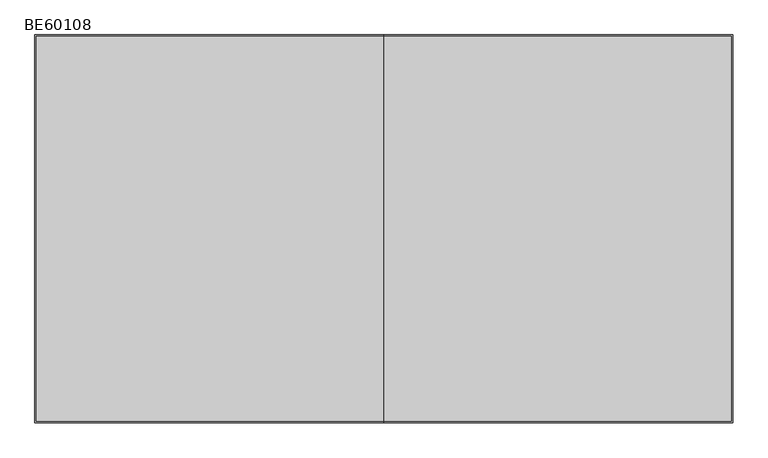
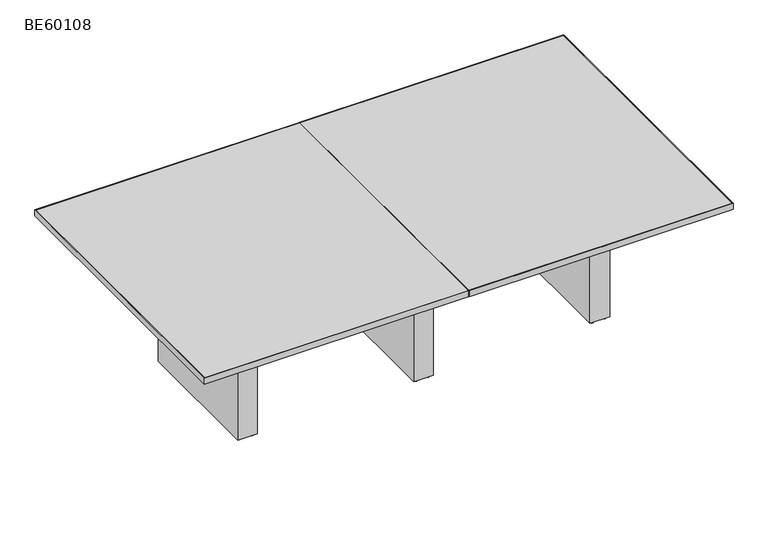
"""IFC4 building model written with IfcOpenShell, lengths in millimetres: furniture geometry, ERG-Beta-Conference_Table-Rectangle : BE60108."""

from ifc_helpers import new_model, si_unit, point, frame, frame_2d, origin, origin_with_axes, place, context, project, spatial, polyline, circle_curve, trimmed, segment, composite_curve, outline, extrude, source, transform, mapped, element, save


def be60108_65b3de9a(model_context):
    return source(origin(), model_context, "Body", "SweptSolid", [
        extrude(outline(composite_curve([segment(trimmed(circle_curve(frame_2d((511.175, 390.276527)), 9.525), [point((501.65, 390.276527))], [point((520.7, 390.276527))], False, "CARTESIAN"), True, "CONTINUOUS"), segment(trimmed(circle_curve(frame_2d((511.175, 390.276527)), 9.525), [point((520.7, 390.276527))], [point((501.65, 390.276527))], False, "CARTESIAN"), True, "CONTINUOUS")], self_intersect=False)), origin_with_axes(), (0.0, 0.0, 1.0), 9.525),
        extrude(outline(composite_curve([segment(trimmed(circle_curve(frame_2d((574.675, 390.276527)), 9.525), [point((565.15, 390.276527))], [point((584.2, 390.276527))], False, "CARTESIAN"), True, "CONTINUOUS"), segment(trimmed(circle_curve(frame_2d((574.675, 390.276527)), 9.525), [point((584.2, 390.276527))], [point((565.15, 390.276527))], False, "CARTESIAN"), True, "CONTINUOUS")], self_intersect=False)), origin_with_axes(), (0.0, 0.0, 1.0), 9.525),
        extrude(outline(composite_curve([segment(trimmed(circle_curve(frame_2d((511.175, -282.823473)), 9.525), [point((501.65, -282.823473))], [point((520.7, -282.823473))], False, "CARTESIAN"), True, "CONTINUOUS"), segment(trimmed(circle_curve(frame_2d((511.175, -282.823473)), 9.525), [point((520.7, -282.823473))], [point((501.65, -282.823473))], False, "CARTESIAN"), True, "CONTINUOUS")], self_intersect=False)), origin_with_axes(), (0.0, 0.0, 1.0), 9.525),
        extrude(outline(composite_curve([segment(trimmed(circle_curve(frame_2d((574.675, -282.823473)), 9.525), [point((565.15, -282.823473))], [point((584.2, -282.823473))], False, "CARTESIAN"), True, "CONTINUOUS"), segment(trimmed(circle_curve(frame_2d((574.675, -282.823473)), 9.525), [point((584.2, -282.823473))], [point((565.15, -282.823473))], False, "CARTESIAN"), True, "CONTINUOUS")], self_intersect=False)), origin_with_axes(), (0.0, 0.0, 1.0), 9.525),
        extrude(outline(polyline([(593.725, 409.326527), (593.725, -301.873473), (492.125, -301.873473), (492.125, 409.326527), (593.725, 409.326527)])), frame((0.0, 0.0, 9.525), z_axis=(0.0, 0.0, 1.0), x_axis=(1.0, 0.0, 0.0)), (0.0, 0.0, 1.0), 695.3249758),
        extrude(outline(composite_curve([segment(trimmed(circle_curve(frame_2d((1425.575, 390.276527)), 9.525), [point((1416.05, 390.276527))], [point((1435.1, 390.276527))], False, "CARTESIAN"), True, "CONTINUOUS"), segment(trimmed(circle_curve(frame_2d((1425.575, 390.276527)), 9.525), [point((1435.1, 390.276527))], [point((1416.05, 390.276527))], False, "CARTESIAN"), True, "CONTINUOUS")], self_intersect=False)), origin_with_axes(), (0.0, 0.0, 1.0), 9.525),
        extrude(outline(composite_curve([segment(trimmed(circle_curve(frame_2d((1489.075, 390.276527)), 9.525), [point((1479.55, 390.276527))], [point((1498.6, 390.276527))], False, "CARTESIAN"), True, "CONTINUOUS"), segment(trimmed(circle_curve(frame_2d((1489.075, 390.276527)), 9.525), [point((1498.6, 390.276527))], [point((1479.55, 390.276527))], False, "CARTESIAN"), True, "CONTINUOUS")], self_intersect=False)), origin_with_axes(), (0.0, 0.0, 1.0), 9.525),
        extrude(outline(composite_curve([segment(trimmed(circle_curve(frame_2d((1425.575, -282.823473)), 9.525), [point((1416.05, -282.823473))], [point((1435.1, -282.823473))], False, "CARTESIAN"), True, "CONTINUOUS"), segment(trimmed(circle_curve(frame_2d((1425.575, -282.823473)), 9.525), [point((1435.1, -282.823473))], [point((1416.05, -282.823473))], False, "CARTESIAN"), True, "CONTINUOUS")], self_intersect=False)), origin_with_axes(), (0.0, 0.0, 1.0), 9.525),
        extrude(outline(composite_curve([segment(trimmed(circle_curve(frame_2d((1489.075, -282.823473)), 9.525), [point((1479.55, -282.823473))], [point((1498.6, -282.823473))], False, "CARTESIAN"), True, "CONTINUOUS"), segment(trimmed(circle_curve(frame_2d((1489.075, -282.823473)), 9.525), [point((1498.6, -282.823473))], [point((1479.55, -282.823473))], False, "CARTESIAN"), True, "CONTINUOUS")], self_intersect=False)), origin_with_axes(), (0.0, 0.0, 1.0), 9.525),
        extrude(outline(polyline([(1508.125, 409.326527), (1508.125, -301.873473), (1406.525, -301.873473), (1406.525, 409.326527), (1508.125, 409.326527)])), frame((0.0, 0.0, 9.525), z_axis=(0.0, 0.0, 1.0), x_axis=(1.0, 0.0, 0.0)), (0.0, 0.0, 1.0), 695.3249758),
        extrude(outline(composite_curve([segment(trimmed(circle_curve(frame_2d((-403.225, 390.276527)), 9.525), [point((-412.75, 390.276527))], [point((-393.7, 390.276527))], False, "CARTESIAN"), True, "CONTINUOUS"), segment(trimmed(circle_curve(frame_2d((-403.225, 390.276527)), 9.525), [point((-393.7, 390.276527))], [point((-412.75, 390.276527))], False, "CARTESIAN"), True, "CONTINUOUS")], self_intersect=False)), origin_with_axes(), (0.0, 0.0, 1.0), 9.525),
        extrude(outline(composite_curve([segment(trimmed(circle_curve(frame_2d((-339.725, 390.276527)), 9.525), [point((-349.25, 390.276527))], [point((-330.2, 390.276527))], False, "CARTESIAN"), True, "CONTINUOUS"), segment(trimmed(circle_curve(frame_2d((-339.725, 390.276527)), 9.525), [point((-330.2, 390.276527))], [point((-349.25, 390.276527))], False, "CARTESIAN"), True, "CONTINUOUS")], self_intersect=False)), origin_with_axes(), (0.0, 0.0, 1.0), 9.525),
        extrude(outline(composite_curve([segment(trimmed(circle_curve(frame_2d((-403.225, -282.823473)), 9.525), [point((-412.75, -282.823473))], [point((-393.7, -282.823473))], False, "CARTESIAN"), True, "CONTINUOUS"), segment(trimmed(circle_curve(frame_2d((-403.225, -282.823473)), 9.525), [point((-393.7, -282.823473))], [point((-412.75, -282.823473))], False, "CARTESIAN"), True, "CONTINUOUS")], self_intersect=False)), origin_with_axes(), (0.0, 0.0, 1.0), 9.525),
        extrude(outline(composite_curve([segment(trimmed(circle_curve(frame_2d((-339.725, -282.823473)), 9.525), [point((-349.25, -282.823473))], [point((-330.2, -282.823473))], False, "CARTESIAN"), True, "CONTINUOUS"), segment(trimmed(circle_curve(frame_2d((-339.725, -282.823473)), 9.525), [point((-330.2, -282.823473))], [point((-349.25, -282.823473))], False, "CARTESIAN"), True, "CONTINUOUS")], self_intersect=False)), origin_with_axes(), (0.0, 0.0, 1.0), 9.525),
        extrude(outline(polyline([(-320.675, 409.326527), (-320.675, -301.873473), (-422.275, -301.873473), (-422.275, 409.326527), (-320.675, 409.326527)])), frame((0.0, 0.0, 9.525), z_axis=(0.0, 0.0, 1.0), x_axis=(1.0, 0.0, 0.0)), (0.0, 0.0, 1.0), 695.3249758),
        extrude(outline(polyline([(1914.525, 815.726527), (1914.525, -708.273473), (544.5125, -708.273473), (544.5125, -705.098473), (1911.35, -705.098473), (1911.35, 812.551527), (544.5125, 812.551527), (544.5125, 815.726527), (1914.525, 815.726527)])), frame((0.0, 0.0, 704.85), z_axis=(0.0, 0.0, 1.0), x_axis=(1.0, 0.0, 0.0)), (0.0, 0.0, 1.0), 31.75),
        extrude(outline(polyline([(-828.675, -708.273473), (-828.675, 815.726527), (541.3375, 815.726527), (541.3375, 812.551527), (-825.5, 812.551527), (-825.5, -705.098473), (541.3375, -705.098473), (541.3375, -708.273473), (-828.675, -708.273473)])), frame((0.0, 0.0, 704.85), z_axis=(0.0, 0.0, 1.0), x_axis=(1.0, 0.0, 0.0)), (0.0, 0.0, 1.0), 31.75),
        extrude(outline(polyline([(1911.35, 812.551527), (1911.35, -705.098473), (544.5125, -705.098473), (544.5125, 812.551527), (1911.35, 812.551527)])), frame((0.0, 0.0, 704.85), z_axis=(0.0, 0.0, 1.0), x_axis=(1.0, 0.0, 0.0)), (0.0, 0.0, 1.0), 31.75),
        extrude(outline(polyline([(-825.5, -705.098473), (-825.5, 812.551527), (541.3375, 812.551527), (541.3375, -705.098473), (-825.5, -705.098473)])), frame((0.0, 0.0, 704.85), z_axis=(0.0, 0.0, 1.0), x_axis=(1.0, 0.0, 0.0)), (0.0, 0.0, 1.0), 31.75),
    ])


if __name__ == "__main__":
    model = new_model("IFC4")
    model_context = context("Model", 3, world=origin())
    ifc_project = project(units=[si_unit("LENGTHUNIT", "METRE", prefix="MILLI")], contexts=[model_context])
    site = spatial("IfcSite", under=ifc_project)
    building = spatial("IfcBuilding", under=site)
    placement = place(None, origin())
    be60108_shape = be60108_65b3de9a(model_context)
    element("IfcFurniture", 1, ObjectType="ERG-Beta-Conference_Table-Rectangle : BE60108", at=placement, inside=building, context=model_context, shape_type="MappedRepresentation", body=[
        mapped(be60108_shape, transform((0.0, 0.0, 0.0), x_axis=(1.0, 0.0, 0.0), y_axis=(0.0, 1.0, 0.0), z_axis=(0.0, 0.0, 1.0))),
    ])
    save(model, "model.ifc")
